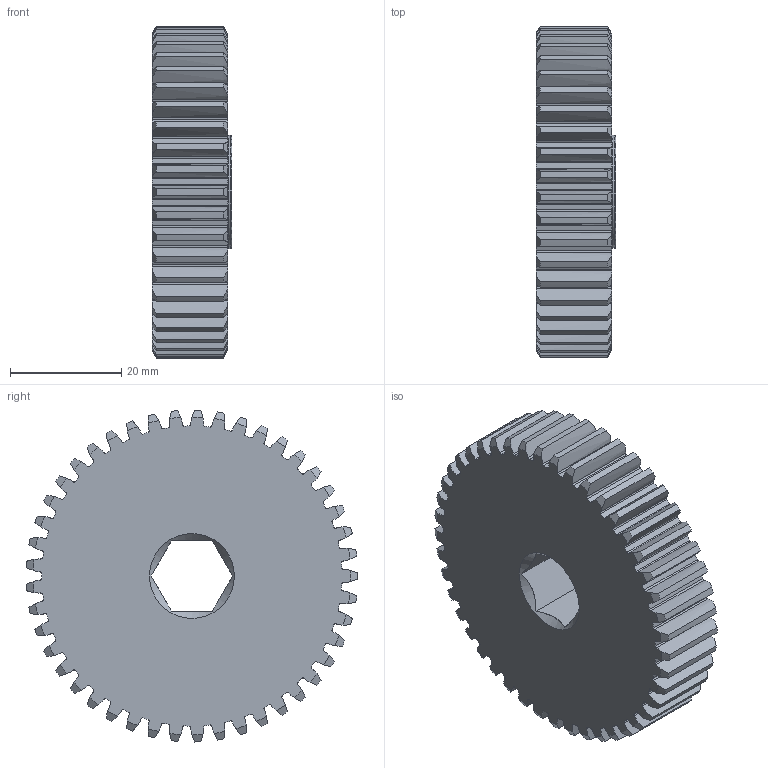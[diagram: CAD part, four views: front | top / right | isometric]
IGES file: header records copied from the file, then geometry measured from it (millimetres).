
Global section: file name: No Iges File Name specified; native system: AutoDesk Inventor R6.0; preprocessor: AutoDesk Inventor Iges Exporter R6.0; author: No Author specified; organization: No Organization specified; date: 20080103.182045; units: inch
Bounding box: 14.3 x 59.65 x 59.68 mm (x, y, z)
Surface area: 10352.3 mm2 (no closed solid volume)
Topology: 0 solids, 0 shells, 374 faces, 2237 edges, 2232 vertices
Faces by surface type: revolution 364, plane 9, bspline 1
